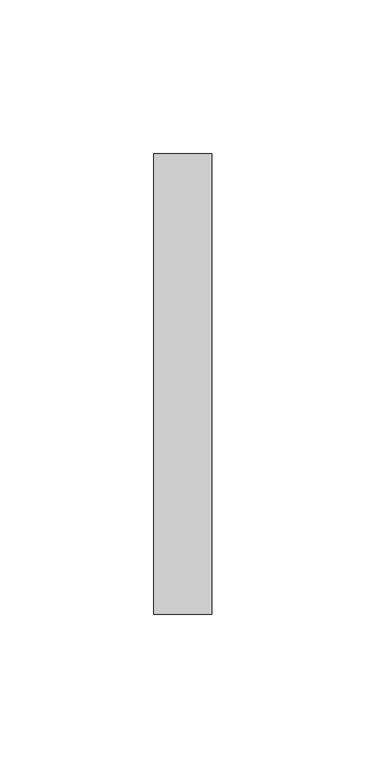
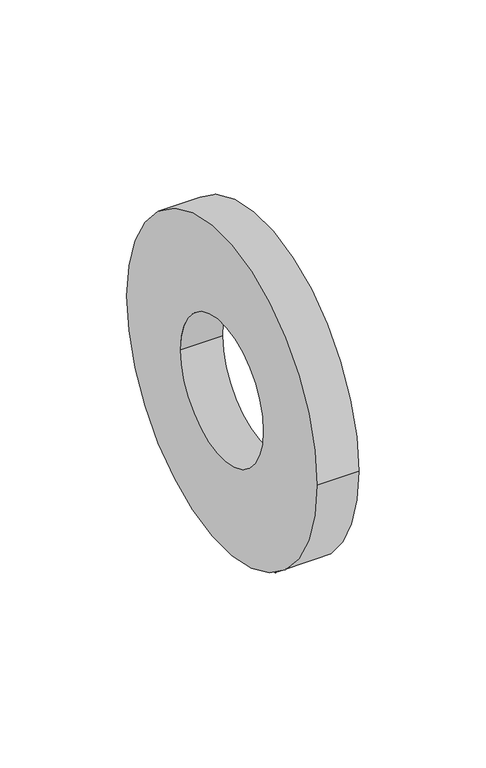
"""IFC4 building model written with IfcOpenShell, lengths in millimetres: pipe fitting geometry, Plumbing-Pipe-Fittings_Pexgol_Flange_Loose-Flange : Loose Flange for Flared end."""

from ifc_helpers import new_model, si_unit, point, frame, origin, origin_2d, place, context, project, spatial, circle_curve, trimmed, segment, composite_curve, outline, extrude, source, transform, mapped, element, save


def pipe_fitting_1bf4a7b4(model_context):
    return source(origin(), model_context, "Body", "SweptSolid", [
        extrude(outline(composite_curve([segment(trimmed(circle_curve(origin_2d(), 75.0), [point((-75.0, 0.0))], [point((75.0, 0.0))], False, "CARTESIAN"), True, "CONTINUOUS"), segment(trimmed(circle_curve(origin_2d(), 75.0), [point((75.0, 0.0))], [point((-75.0, 0.0))], False, "CARTESIAN"), True, "CONTINUOUS")], self_intersect=False), holes=[composite_curve([segment(trimmed(circle_curve(origin_2d(), 32.5), [point((-32.5, 0.0))], [point((32.5, 0.0))], True, "CARTESIAN"), True, "CONTINUOUS"), segment(trimmed(circle_curve(origin_2d(), 32.5), [point((32.5, 0.0))], [point((-32.5, 0.0))], True, "CARTESIAN"), True, "CONTINUOUS")], self_intersect=False)]), frame((0.0, 0.0, 0.0), z_axis=(1.0, 0.0, 0.0), x_axis=(0.0, 1.0, 0.0)), (0.0, 0.0, 1.0), 19.0),
    ])


if __name__ == "__main__":
    model = new_model("IFC4")
    model_context = context("Model", 3, world=origin())
    ifc_project = project(units=[si_unit("LENGTHUNIT", "METRE", prefix="MILLI")], contexts=[model_context])
    site = spatial("IfcSite", under=ifc_project)
    building = spatial("IfcBuilding", under=site)
    placement = place(None, origin())
    pipe_fitting_shape = pipe_fitting_1bf4a7b4(model_context)
    element("IfcPipeFitting", 1, ObjectType="Plumbing-Pipe-Fittings_Pexgol_Flange_Loose-Flange : Loose Flange for Flared end", at=placement, inside=building, context=model_context, shape_type="MappedRepresentation", body=[
        mapped(pipe_fitting_shape, transform((0.0, 0.0, 0.0), x_axis=(1.0, 0.0, 0.0), y_axis=(0.0, 1.0, 0.0), z_axis=(0.0, 0.0, 1.0))),
    ])
    save(model, "model.ifc")
